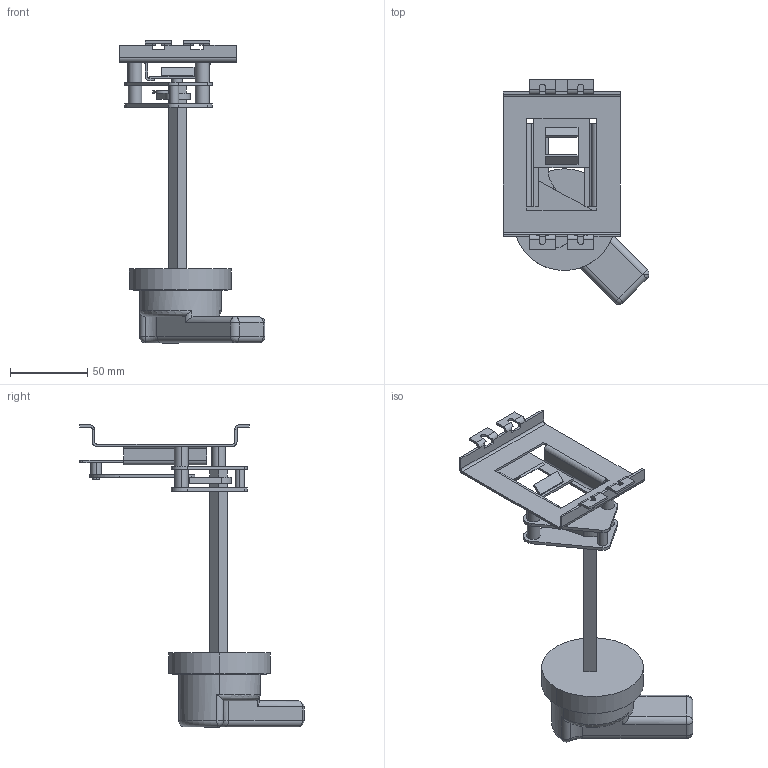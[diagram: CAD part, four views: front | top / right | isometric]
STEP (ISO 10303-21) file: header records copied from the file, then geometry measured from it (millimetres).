
FILE_DESCRIPTION (( 'STEP AP203' ), '1' );
FILE_NAME ('Ðó÷íîé ïîâîðîòíûé ïðèâîä ýêñöåíòðèêîì ê ÂÀ-99Ì 63À.STEP', '2018-06-08T10:55:55', ( '' ), ( '' ), 'SwSTEP 2.0', 'SolidWorks 2017', '' );
FILE_SCHEMA (( 'CONFIG_CONTROL_DESIGN' ));
Length unit declared in the file: millimetre
Products named in the file (1): Ðó÷íîé ïîâîðîòíûé ïðèâîä ýêñöåíòðèêîì ê ÂÀ-99Ì 63À
Bounding box: 94.69 x 145.52 x 196.2 mm (x, y, z)
Volume: 164429.1 mm3; surface area: 52563.8 mm2
Topology: 1 solids, 1 shells, 261 faces, 709 edges, 451 vertices
Faces by surface type: plane 154, cylinder 85, sphere 8, cone 5, torus 5, bspline 4
Entity records: 8488 total; most frequent: CARTESIAN_POINT 1741, ORIENTED_EDGE 1406, DIRECTION 1378, EDGE_CURVE 703, VECTOR 484, LINE 484, VERTEX_POINT 448, AXIS2_PLACEMENT_3D 447
